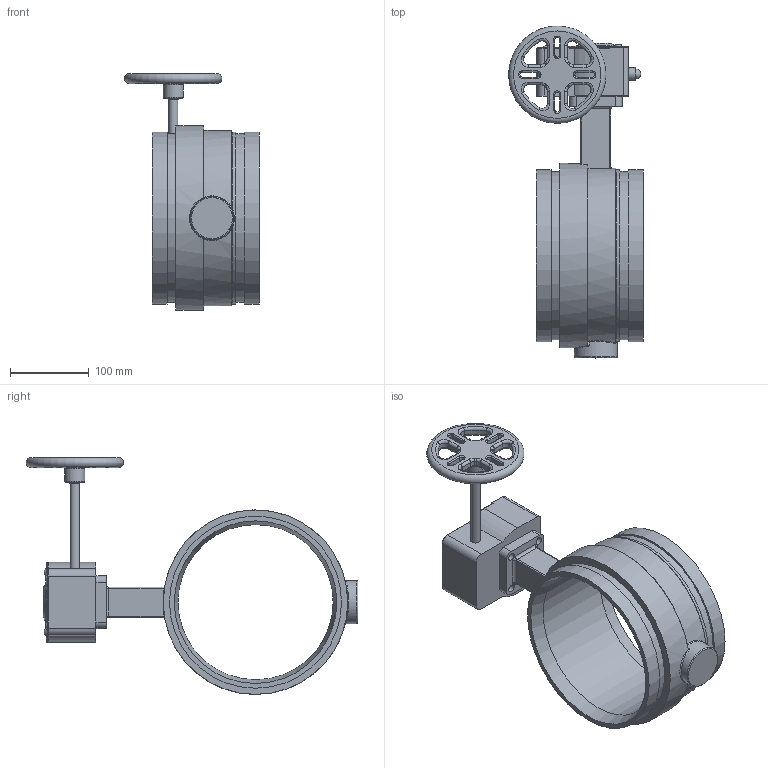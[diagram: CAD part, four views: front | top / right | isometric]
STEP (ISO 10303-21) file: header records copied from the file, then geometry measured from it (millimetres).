
FILE_DESCRIPTION(/* description */ ('Vic Series 461 Vic-300 MasterSeal SS Butterfly Valve w/Gear Op','CAx-IF Rec.Pracs.---Representation and Presentation of Product Manufacturing Information (PMI)---4.0---2014-10-13'),/* implementation_level */ '2;1');
FILE_NAME(/* name */ 'C:\Users\kkamble\AppData\Roaming\Autodesk\ApplicationPlugins\Back Up\Victaulic_SS-OGS_Valve Butterfly Vic-300 Masterseal GO_Series 461 (OGS)\Victaulic_SS-OGS_Valve Butterfly Vic-300 Masterseal GO_8 (200).stp',/* time_stamp */ '2020-09-02T14:51:17+05:00',/* author */ ('jbrannon'),/* organization */ ('Victaulic'),/* preprocessor_version */ 'ST-DEVELOPER v17.2',/* originating_system */ 'Autodesk Inventor 2019',/* authorisation */ '');
FILE_SCHEMA (('AP242_MANAGED_MODEL_BASED_3D_ENGINEERING_MIM_LF { 1 0 10303 442 1 1 4 }'));
Length unit declared in the file: inch
Products named in the file (3): 461-08.0; 461-08.0_1; 461-08.0_2
Assembly tree (2 placements, depth 2):
  461-08.0
    461-08.0_1
    461-08.0_2
Bounding box: 171.7 x 422.4 x 301.62 mm (x, y, z)
Volume: 2140406.7 mm3; surface area: 317915.5 mm2
Topology: 2 solids, 2 shells, 369 faces, 867 edges, 524 vertices
Faces by surface type: cylinder 143, plane 96, torus 93, bspline 20, sphere 14, cone 3
Full cylindrical faces by diameter (mm): 7.938 x4, 9.652 x4, 11.938 x1, 12.7 x2, 15.875 x2, 25.4 x1, 50.8 x1, 54.102 x1, 54.864 x1, 197.612 x1, 214.401 x2, 219.075 x3, 234.95 x1
Entity records: 11851 total; most frequent: CARTESIAN_POINT 2584, DIRECTION 2030, ORIENTED_EDGE 1722, EDGE_CURVE 861, AXIS2_PLACEMENT_3D 858, VERTEX_POINT 524, CIRCLE 500, EDGE_LOOP 423
